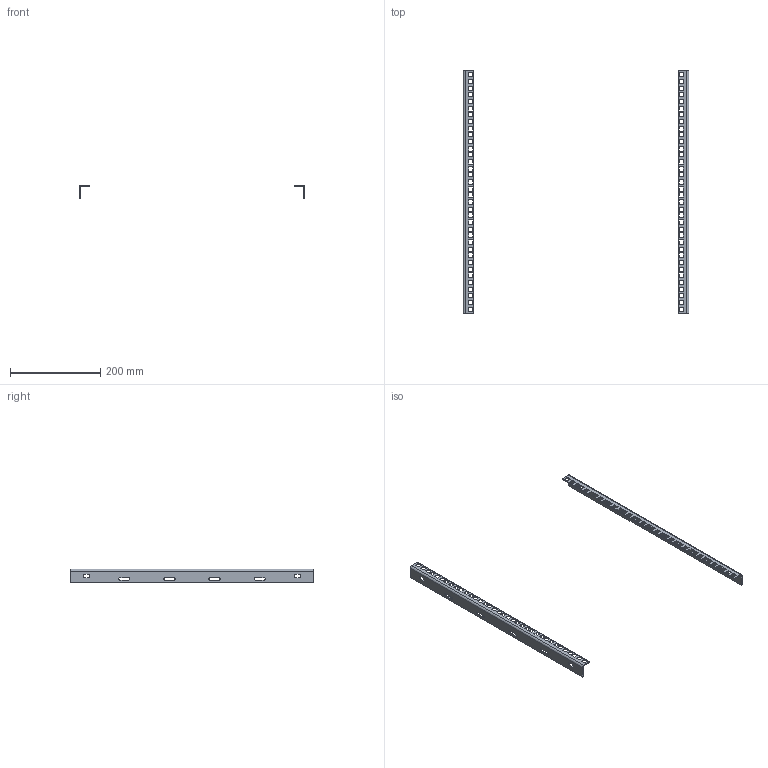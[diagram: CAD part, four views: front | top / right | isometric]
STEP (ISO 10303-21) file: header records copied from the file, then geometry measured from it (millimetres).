
FILE_DESCRIPTION (( 'STEP AP203' ), '1' );
FILE_NAME ('ewmr24s.STEP', '2009-03-09T14:42:16', ( '' ), ( '' ), 'SwSTEP 2.0', 'SolidWorks 2007', '' );
FILE_SCHEMA (( 'CONFIG_CONTROL_DESIGN' ));
Length unit declared in the file: millimetre
Products named in the file (2): ewmr24s; 87934910_87934910
Assembly tree (2 placements, depth 2):
  ewmr24s
    87934910_87934910  x2
Bounding box: 500.08 x 539.75 x 30 mm (x, y, z)
Volume: 113047.9 mm3; surface area: 105907.7 mm2
Topology: 2 solids, 2 shells, 364 faces, 1064 edges, 704 vertices
Faces by surface type: plane 344, cylinder 20
Entity records: 6308 total; most frequent: CARTESIAN_POINT 1071, ORIENTED_EDGE 1064, DIRECTION 926, EDGE_CURVE 532, LINE 512, VECTOR 512, VERTEX_POINT 352, EDGE_LOOP 266
